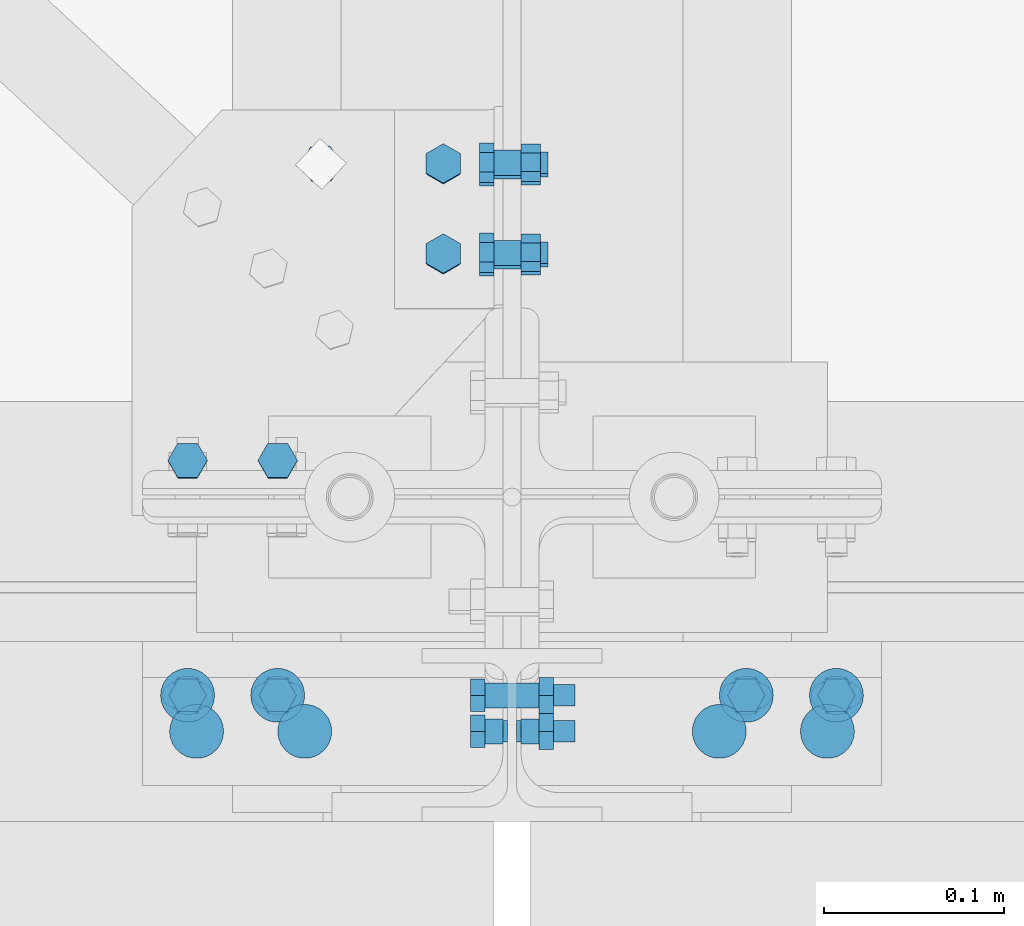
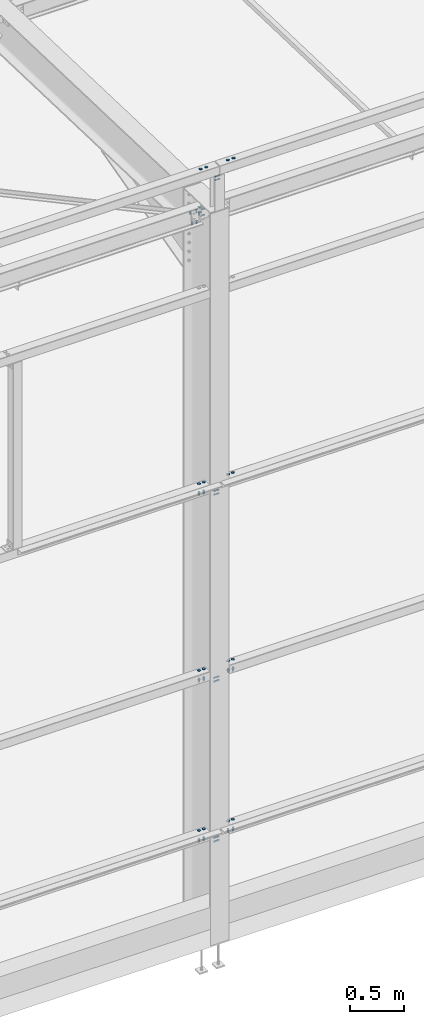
# One storey, part 206 of 362: 22 mechanical fasteners.
"""IFC2X3 building model written with IfcOpenShell, lengths in millimetres."""

from ifc_helpers import new_model, si_unit, frame, frame_2d, origin_with_axes, origin_2d_with_axis, place, context, subcontext, project, spatial, polyline, circle_curve, parameter, trimmed, segment, composite_curve, circle, outline, extrude, source, transform, mapped, material, type_object, element, save


model = new_model("IFC2X3")

# Units and contexts
model_context = context("Model", 3, precision=1e-05, world=origin_with_axes())
body_context = subcontext(model_context, "Body", "Model", "MODEL_VIEW")
ifc_project = project(units=[si_unit("LENGTHUNIT", "METRE", prefix="MILLI"), si_unit("AREAUNIT", "SQUARE_METRE"), si_unit("VOLUMEUNIT", "CUBIC_METRE"), si_unit("MASSUNIT", "GRAM", prefix="KILO"), si_unit("TIMEUNIT", "SECOND"), si_unit("PLANEANGLEUNIT", "RADIAN"), si_unit("SOLIDANGLEUNIT", "STERADIAN"), si_unit("THERMODYNAMICTEMPERATUREUNIT", "DEGREE_CELSIUS"), si_unit("LUMINOUSINTENSITYUNIT", "LUMEN")], contexts=[model_context])

# Site, building, storey
site_placement = place(None, origin_with_axes())
site = spatial("IfcSite", under=ifc_project, at=site_placement, Name="Undefined", CompositionType="ELEMENT")
building_placement = place(site_placement, origin_with_axes())
building = spatial("IfcBuilding", under=site, at=building_placement, Name="Undefined", CompositionType="ELEMENT")
storey_placement = place(building_placement, origin_with_axes())
storey = spatial("IfcBuildingStorey", under=building, at=storey_placement, Name="Undefined", CompositionType="ELEMENT", Elevation=0.0)

# Mechanical fasteners
ifc_material_1 = material(Name="8.8")
mechanical_fastener_type = type_object("IfcMechanicalFastenerType", Name="Bolt assembly")
shared_shape_1 = source(origin_with_axes(), body_context, "Body", "SweptSolid", [
    extrude(circle(Radius=7.0, at=origin_2d_with_axis()), frame((0.0, 0.098298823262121, 0.0), z_axis=(0.0, 1.0, 0.0), x_axis=(1.0, 0.0, 0.0)), (0.0, 0.0, 1.0), 6.1),
    extrude(circle(Radius=7.0, at=origin_2d_with_axis()), frame((0.0, -1.90000109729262, 0.0), z_axis=(0.0, 1.0, 0.0), x_axis=(1.0, 0.0, 0.0)), (0.0, 0.0, 1.0), 2.0),
    extrude(outline(polyline([(10.96965511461, 0.0), (5.484827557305, 9.50000000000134), (-5.484827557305, 9.50000000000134), (-10.96965511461, 0.0), (-5.484827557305, -9.50000000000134), (5.484827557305, -9.50000000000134), (10.96965511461, 0.0)])), frame((0.0, -10.0000010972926, 0.0), z_axis=(0.0, 1.0, 0.0), x_axis=(1.0, 0.0, 0.0)), (0.0, 0.0, 1.0), 8.0),
    extrude(circle(Radius=6.0, at=origin_2d_with_axis()), frame((0.0, -2.00000109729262, 0.0), z_axis=(0.0, 1.0, 0.0), x_axis=(1.0, 0.0, 0.0)), (0.0, 0.0, 1.0), 25.0),
    extrude(outline(polyline([(10.39230484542, 0.0), (5.19615242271, 9.00000000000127), (-5.19615242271, 9.00000000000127), (-10.39230484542, 0.0), (-5.19615242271, -9.00000000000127), (5.19615242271, -9.00000000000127), (10.39230484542, 0.0)])), frame((0.0, 6.19831197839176, 0.0), z_axis=(0.0, 1.0, 0.0), x_axis=(1.0, 0.0, 0.0)), (0.0, 0.0, 1.0), 10.8),
])
mechanical_fastener_1_placement = place(storey_placement, frame((4073.98418082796, 184.741906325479, 7844.09550787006), z_axis=(0.0364834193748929, -0.998873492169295, 0.0303431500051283), x_axis=(-0.999334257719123, -0.0364654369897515, 0.0011459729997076)))
element("IfcMechanicalFastener", 1, at=mechanical_fastener_1_placement, inside=storey, type_object=mechanical_fastener_type, material=ifc_material_1, Name="Bolt assembly", NominalDiameter=12.0, NominalLength=25.0, context=body_context, shape_type="MappedRepresentation", body=[
    mapped(shared_shape_1, transform((0.0, 0.0, 0.0))),
])
shared_shape_2 = source(origin_with_axes(), body_context, "Body", "SweptSolid", [
    extrude(circle(Radius=7.0, at=origin_2d_with_axis()), frame((0.0, -0.10007666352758, 0.0), z_axis=(0.0, 1.0, 0.0), x_axis=(1.0, 0.0, 0.0)), (0.0, 0.0, 1.0), 10.3),
    extrude(circle(Radius=7.0, at=origin_2d_with_axis()), frame((0.0, -4.90000000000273, 0.0), z_axis=(0.0, 1.0, 0.0), x_axis=(1.0, 0.0, 0.0)), (0.0, 0.0, 1.0), 5.0),
    extrude(outline(polyline([(10.96965511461, 0.0), (5.484827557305, 9.50000000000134), (-5.484827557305, 9.50000000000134), (-10.96965511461, 0.0), (-5.484827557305, -9.50000000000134), (5.484827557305, -9.50000000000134), (10.96965511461, 0.0)])), frame((0.0, -13.0000000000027, 0.0), z_axis=(0.0, 1.0, 0.0), x_axis=(1.0, 0.0, 0.0)), (0.0, 0.0, 1.0), 8.0),
    extrude(circle(Radius=6.0, at=origin_2d_with_axis()), frame((0.0, -5.00000000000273, 0.0), z_axis=(0.0, 1.0, 0.0), x_axis=(1.0, 0.0, 0.0)), (0.0, 0.0, 1.0), 30.0),
    extrude(outline(polyline([(10.39230484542, 0.0), (5.19615242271, 9.00000000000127), (-5.19615242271, 9.00000000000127), (-10.39230484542, 0.0), (-5.19615242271, -9.00000000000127), (5.19615242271, -9.00000000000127), (10.39230484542, 0.0)])), frame((0.0, 10.1999231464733, 0.0), z_axis=(0.0, 1.0, 0.0), x_axis=(1.0, 0.0, 0.0)), (0.0, 0.0, 1.0), 10.8),
])
for number, where, z_axis, x_axis, name in (
    (2, (4174.89999331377, 133.594721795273, 7809.53910875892), (0.0, -0.0324574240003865, -0.999473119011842), (0.0, 0.999473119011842, -0.0324574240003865), "Bolt assembly"),
    (3, (4174.89999331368, 135.534436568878, 7875.51530173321), (0.0, -0.0324574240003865, -0.999473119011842), (0.0, 0.999473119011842, -0.0324574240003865), "Bolt assembly"),
):
    element("IfcMechanicalFastener", number, at=place(storey_placement, frame(where, z_axis=z_axis, x_axis=x_axis)), inside=storey, type_object=mechanical_fastener_type, material=ifc_material_1, Name=name, NominalDiameter=12.0, NominalLength=30.0, context=body_context, shape_type="MappedRepresentation", body=[
        mapped(shared_shape_2, transform((0.0, 0.0, 0.0))),
        mapped(shared_shape_2, transform((49.9999999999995, 0.0, -3.63797880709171e-12))),
    ])
shared_shape_3 = source(origin_with_axes(), body_context, "Body", "SweptSolid", [
    extrude(circle(Radius=7.0, at=origin_2d_with_axis()), frame((0.0, -2.99999932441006, 0.0), z_axis=(0.0, 1.0, 0.0), x_axis=(1.0, 0.0, 0.0)), (0.0, 0.0, 1.0), 6.0),
    extrude(circle(Radius=7.0, at=origin_2d_with_axis()), frame((0.0, 2.90000527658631, 0.0), z_axis=(0.0, 1.0, 0.0), x_axis=(1.0, 0.0, 0.0)), (0.0, 0.0, 1.0), 5.1),
    extrude(circle(Radius=7.0, at=origin_2d_with_axis()), frame((0.0, -7.91218072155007, 0.0), z_axis=(0.0, 1.0, 0.0), x_axis=(1.0, 0.0, 0.0)), (0.0, 0.0, 1.0), 5.0),
    extrude(outline(polyline([(10.96965511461, 0.0), (5.484827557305, 9.50000000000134), (-5.484827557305, 9.50000000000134), (-10.96965511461, 0.0), (-5.484827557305, -9.50000000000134), (5.484827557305, -9.50000000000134), (10.96965511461, 0.0)])), frame((0.0, -16.0121807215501, 0.0), z_axis=(0.0, 1.0, 0.0), x_axis=(1.0, 0.0, 0.0)), (0.0, 0.0, 1.0), 8.0),
    extrude(circle(Radius=6.0, at=origin_2d_with_axis()), frame((0.0, -8.01218072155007, 0.0), z_axis=(0.0, 1.0, 0.0), x_axis=(1.0, 0.0, 0.0)), (0.0, 0.0, 1.0), 35.0),
    extrude(outline(polyline([(10.39230484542, 0.0), (5.19615242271, 9.00000000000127), (-5.19615242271, 9.00000000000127), (-10.39230484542, 0.0), (-5.19615242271, -9.00000000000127), (5.19615242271, -9.00000000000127), (10.39230484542, 0.0)])), frame((0.0, 8.00000527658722, 0.0), z_axis=(0.0, 1.0, 0.0), x_axis=(1.0, 0.0, 0.0)), (0.0, 0.0, 1.0), 10.8),
])
mechanical_fastener_2_placement = place(storey_placement, frame((4141.89999331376, 134.665821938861, 7842.52172166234), z_axis=(-1.0, 0.0, 0.0), x_axis=(0.0, 0.999473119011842, -0.0324574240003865)))
element("IfcMechanicalFastener", 4, at=mechanical_fastener_2_placement, inside=storey, type_object=mechanical_fastener_type, material=ifc_material_1, Name="Bolt assembly", NominalDiameter=12.0, NominalLength=35.0, context=body_context, shape_type="MappedRepresentation", body=[
    mapped(shared_shape_3, transform((0.0, 0.0, 0.0))),
    mapped(shared_shape_3, transform((49.9999999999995, 0.0, -3.63797880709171e-12))),
])
shared_shape_4 = source(origin_with_axes(), body_context, "Body", "SweptSolid", [
    extrude(circle(Radius=7.0, at=origin_2d_with_axis()), frame((0.0, -3.09999932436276, 0.0), z_axis=(0.0, 1.0, 0.0), x_axis=(1.0, 0.0, 0.0)), (0.0, 0.0, 1.0), 6.1),
    extrude(circle(Radius=7.0, at=origin_2d_with_axis()), frame((0.0, -11.4255399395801, 0.0), z_axis=(0.0, 1.0, 0.0), x_axis=(1.0, 0.0, 0.0)), (0.0, 0.0, 1.0), 8.5),
    extrude(outline(polyline([(10.96965511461, 0.0), (5.484827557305, 9.50000000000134), (-5.484827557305, 9.50000000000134), (-10.96965511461, 0.0), (-5.484827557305, -9.50000000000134), (5.484827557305, -9.50000000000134), (10.96965511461, 0.0)])), frame((0.0, -19.5255399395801, 0.0), z_axis=(0.0, 1.0, 0.0), x_axis=(1.0, 0.0, 0.0)), (0.0, 0.0, 1.0), 8.0),
    extrude(circle(Radius=6.0, at=origin_2d_with_axis()), frame((0.0, -11.5255399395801, 0.0), z_axis=(0.0, 1.0, 0.0), x_axis=(1.0, 0.0, 0.0)), (0.0, 0.0, 1.0), 30.0),
    extrude(outline(polyline([(10.39230484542, 0.0), (5.19615242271, 9.00000000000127), (-5.19615242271, 9.00000000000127), (-10.39230484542, 0.0), (-5.19615242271, -9.00000000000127), (5.19615242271, -9.00000000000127), (10.39230484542, 0.0)])), frame((0.0, 3.00000067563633, 0.0), z_axis=(0.0, 1.0, 0.0), x_axis=(1.0, 0.0, 0.0)), (0.0, 0.0, 1.0), 10.8),
])
mechanical_fastener_3_placement = place(storey_placement, frame((4050.0, 19.7493590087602, 7846.25358026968), z_axis=(0.0, -0.999473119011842, 0.0324574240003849), x_axis=(-1.0, 0.0, 0.0)))
element("IfcMechanicalFastener", 5, at=mechanical_fastener_3_placement, inside=storey, type_object=mechanical_fastener_type, material=ifc_material_1, Name="Bolt assembly", NominalDiameter=12.0, NominalLength=30.0, context=body_context, shape_type="MappedRepresentation", body=[
    mapped(shared_shape_4, transform((0.0, 0.0, 0.0))),
    mapped(shared_shape_4, transform((49.9999999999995, 0.0, -3.63797880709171e-12))),
])
ifc_material_2 = material(Name="6.8")
shared_shape_5 = source(origin_with_axes(), body_context, "Body", "SweptSolid", [
    extrude(circle(Radius=15.0, at=origin_2d_with_axis()), frame((0.0, 0.0, 0.0), z_axis=(0.0, 1.0, 0.0), x_axis=(1.0, 0.0, 0.0)), (0.0, 0.0, 1.0), 4.1),
])
for number, where, z_axis, x_axis, name in (
    (6, (4005.0000059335, -130.000005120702, 8550.0), (0.0, 1.0, 0.0), (1.0, 0.0, 0.0), "Bolt assembly"),
    (7, (4355.00000036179, -130.000005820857, 8550.0), (0.0, -1.0, 0.0), (-1.0, 0.0, 0.0), "Bolt assembly"),
):
    element("IfcMechanicalFastener", number, at=place(storey_placement, frame(where, z_axis=z_axis, x_axis=x_axis)), inside=storey, type_object=mechanical_fastener_type, material=ifc_material_2, Name=name, NominalDiameter=30.0, NominalLength=4.0, context=body_context, shape_type="MappedRepresentation", body=[
        mapped(shared_shape_5, transform((0.0, 0.0, 0.0))),
        mapped(shared_shape_5, transform((60.0, 0.0, 0.0))),
    ])
for number, where, z_axis, x_axis, name in (
    (8, (4000.00000272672, -110.000005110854, 1100.0), (0.0, 1.0, 0.0), (1.0, 0.0, 0.0), "Bolt assembly"),
    (9, (4360.00000272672, -110.000005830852, 1100.0), (0.0, -1.0, 0.0), (-1.0, 0.0, 0.0), "Bolt assembly"),
    (10, (4000.00000272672, -110.000005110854, 2900.0), (0.0, 1.0, 0.0), (1.0, 0.0, 0.0), "Bolt assembly"),
    (11, (4360.00000272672, -110.000005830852, 2900.0), (0.0, -1.0, 0.0), (-1.0, 0.0, 0.0), "Bolt assembly"),
    (12, (4000.00000272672, -110.000005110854, 5000.0), (0.0, 1.0, 0.0), (1.0, 0.0, 0.0), "Bolt assembly"),
    (13, (4360.00000272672, -110.000005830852, 5000.0), (0.0, -1.0, 0.0), (-1.0, 0.0, 0.0), "Bolt assembly"),
):
    element("IfcMechanicalFastener", number, at=place(storey_placement, frame(where, z_axis=z_axis, x_axis=x_axis)), inside=storey, type_object=mechanical_fastener_type, material=ifc_material_2, Name=name, NominalDiameter=30.0, NominalLength=4.0, context=body_context, shape_type="MappedRepresentation", body=[
        mapped(shared_shape_5, transform((0.0, 0.0, 0.0))),
        mapped(shared_shape_5, transform((49.9999999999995, 0.0, -3.63797880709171e-12))),
    ])
ifc_material_3 = material(Name="8.8-SB-ZINGUE")
shared_shape_6 = source(origin_with_axes(), body_context, "Body", "SweptSolid", [
    extrude(circle(Radius=7.0, at=origin_2d_with_axis()), frame((0.0, -2.5, 0.0), z_axis=(0.0, 1.0, 0.0), x_axis=(1.0, 0.0, 0.0)), (0.0, 0.0, 1.0), 5.0),
    extrude(circle(Radius=7.0, at=origin_2d_with_axis()), frame((0.0, -14.899999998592, 0.0), z_axis=(0.0, 1.0, 0.0), x_axis=(1.0, 0.0, 0.0)), (0.0, 0.0, 1.0), 10.0),
    extrude(circle(Radius=7.0, at=origin_2d_with_axis()), frame((0.0, 4.9000000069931, 0.0), z_axis=(0.0, 1.0, 0.0), x_axis=(1.0, 0.0, 0.0)), (0.0, 0.0, 1.0), 10.1),
    extrude(outline(polyline([(10.39230484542, 0.0), (5.19615242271, 9.00000000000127), (-5.19615242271, 9.00000000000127), (-10.39230484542, 0.0), (-5.19615242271, -9.00000000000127), (5.19615242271, -9.00000000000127), (10.39230484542, 0.0)])), frame((0.0, -22.919999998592, 0.0), z_axis=(0.0, 1.0, 0.0), x_axis=(1.0, 0.0, 0.0)), (0.0, 0.0, 1.0), 7.92),
    extrude(circle(Radius=6.0, at=origin_2d_with_axis()), frame((0.0, -14.999999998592, 0.0), z_axis=(0.0, 1.0, 0.0), x_axis=(1.0, 0.0, 0.0)), (0.0, 0.0, 1.0), 50.0),
    extrude(outline(polyline([(11.5008173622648, 0.0), (5.7504086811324, 9.96000000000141), (-5.7504086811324, 9.96000000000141), (-11.5008173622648, 0.0), (-5.7504086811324, -9.96000000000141), (5.7504086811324, -9.96000000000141), (11.5008173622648, 0.0)])), frame((0.0, 15.0000000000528, 0.0), z_axis=(0.0, 1.0, 0.0), x_axis=(1.0, 0.0, 0.0)), (0.0, 0.0, 1.0), 7.92),
])
mechanical_fastener_4_placement = place(storey_placement, frame((4180.00000529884, -130.000007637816, 8370.0), z_axis=(0.0, 1.0, 0.0), x_axis=(0.0, 0.0, 1.0)))
element("IfcMechanicalFastener", 14, at=mechanical_fastener_4_placement, inside=storey, type_object=mechanical_fastener_type, material=ifc_material_3, Name="Bolt assembly", NominalDiameter=12.0, NominalLength=50.0, context=body_context, shape_type="MappedRepresentation", body=[
    mapped(shared_shape_6, transform((0.0, 0.0, 0.0))),
    mapped(shared_shape_6, transform((40.0, 0.0, 0.0))),
])
shared_shape_7 = source(origin_with_axes(), body_context, "Body", "SweptSolid", [
    extrude(circle(Radius=7.0, at=origin_2d_with_axis()), frame((0.0, -5.10249010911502, 0.0), z_axis=(0.0, 1.0, 0.0), x_axis=(1.0, 0.0, 0.0)), (0.0, 0.0, 1.0), 10.2),
    extrude(circle(Radius=7.0, at=origin_2d_with_axis()), frame((0.0, 4.9000000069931, 0.0), z_axis=(0.0, 1.0, 0.0), x_axis=(1.0, 0.0, 0.0)), (0.0, 0.0, 1.0), 10.1),
    extrude(circle(Radius=7.0, at=origin_2d_with_axis()), frame((0.0, -14.899999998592, 0.0), z_axis=(0.0, 1.0, 0.0), x_axis=(1.0, 0.0, 0.0)), (0.0, 0.0, 1.0), 10.0),
    extrude(outline(polyline([(10.39230484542, 0.0), (5.19615242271, 9.00000000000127), (-5.19615242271, 9.00000000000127), (-10.39230484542, 0.0), (-5.19615242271, -9.00000000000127), (5.19615242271, -9.00000000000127), (10.39230484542, 0.0)])), frame((0.0, -22.919999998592, 0.0), z_axis=(0.0, 1.0, 0.0), x_axis=(1.0, 0.0, 0.0)), (0.0, 0.0, 1.0), 7.92),
    extrude(circle(Radius=6.0, at=origin_2d_with_axis()), frame((0.0, -14.999999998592, 0.0), z_axis=(0.0, 1.0, 0.0), x_axis=(1.0, 0.0, 0.0)), (0.0, 0.0, 1.0), 50.0),
    extrude(outline(polyline([(11.5008173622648, 0.0), (5.7504086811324, 9.96000000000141), (-5.7504086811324, 9.96000000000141), (-11.5008173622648, 0.0), (-5.7504086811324, -9.96000000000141), (5.7504086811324, -9.96000000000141), (11.5008173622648, 0.0)])), frame((0.0, 15.0000000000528, 0.0), z_axis=(0.0, 1.0, 0.0), x_axis=(1.0, 0.0, 0.0)), (0.0, 0.0, 1.0), 7.92),
])
mechanical_fastener_5_placement = place(storey_placement, frame((4180.00000529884, -110.000007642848, 920.0), z_axis=(0.0, 1.0, 0.0), x_axis=(0.0, 0.0, 1.0)))
element("IfcMechanicalFastener", 15, at=mechanical_fastener_5_placement, inside=storey, type_object=mechanical_fastener_type, material=ifc_material_3, Name="Bolt assembly", NominalDiameter=12.0, NominalLength=50.0, context=body_context, shape_type="MappedRepresentation", body=[
    mapped(shared_shape_7, transform((0.0, 0.0, 0.0))),
    mapped(shared_shape_7, transform((40.0, 0.0, 0.0))),
])
shared_shape_8 = source(origin_with_axes(), body_context, "Body", "SweptSolid", [
    extrude(circle(Radius=7.0, at=origin_2d_with_axis()), frame((0.0, -3.89999843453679, 0.0), z_axis=(0.0, 1.0, 0.0), x_axis=(1.0, 0.0, 0.0)), (0.0, 0.0, 1.0), 4.0),
    extrude(outline(composite_curve([segment(polyline([(-7.0, 7.0), (7.0, 7.0)]), True, "CONTINUOUS"), segment(trimmed(circle_curve(frame_2d((7.0, 0.0), x_axis=(0.0, 1.0)), 7.0), [parameter(0.0)], [parameter(3.14159265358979)], False, "PARAMETER"), True, "CONTINUOUS"), segment(polyline([(7.0, -7.0), (-7.0, -7.0)]), True, "CONTINUOUS"), segment(trimmed(circle_curve(frame_2d((-7.0, 0.0), x_axis=(0.0, -1.0)), 7.0), [parameter(0.0)], [parameter(3.14159265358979)], False, "PARAMETER"), True, "DISCONTINUOUS")], self_intersect=False)), frame((0.0, -0.100011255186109, 0.0), z_axis=(0.0, 1.0, 0.0), x_axis=(1.0, 0.0, 0.0)), (0.0, 0.0, 1.0), 10.1),
    extrude(outline(polyline([(10.39230484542, 0.0), (5.19615242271, 9.00000000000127), (-5.19615242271, 9.00000000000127), (-10.39230484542, 0.0), (-5.19615242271, -9.00000000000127), (5.19615242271, -9.00000000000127), (10.39230484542, 0.0)])), frame((0.0, -11.9199984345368, 0.0), z_axis=(0.0, 1.0, 0.0), x_axis=(1.0, 0.0, 0.0)), (0.0, 0.0, 1.0), 7.92),
    extrude(circle(Radius=6.0, at=origin_2d_with_axis()), frame((0.0, -3.99999923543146, 0.0), z_axis=(0.0, 1.0, 0.0), x_axis=(1.0, 0.0, 0.0)), (0.0, 0.0, 1.0), 40.0),
    extrude(circle(Radius=10.8, at=origin_2d_with_axis()), frame((0.0, 10.0000000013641, 0.0), z_axis=(0.0, 1.0, 0.0), x_axis=(1.0, 0.0, 0.0)), (0.0, 0.0, 1.0), 3.96),
    extrude(outline(polyline([(11.5008173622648, 0.0), (5.7504086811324, 9.96000000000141), (-5.7504086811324, 9.96000000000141), (-11.5008173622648, 0.0), (-5.7504086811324, -9.96000000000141), (5.7504086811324, -9.96000000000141), (11.5008173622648, 0.0)])), frame((0.0, 13.96, 0.0), z_axis=(0.0, 1.0, 0.0), x_axis=(1.0, 0.0, 0.0)), (0.0, 0.0, 1.0), 7.92),
])
mechanical_fastener_6_placement = place(storey_placement, frame((4000.00000272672, -110.000005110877, 1000.0), z_axis=(0.0, 1.0, 0.0), x_axis=(1.0, 0.0, 0.0)))
element("IfcMechanicalFastener", 16, at=mechanical_fastener_6_placement, inside=storey, type_object=mechanical_fastener_type, material=ifc_material_3, Name="Bolt assembly", NominalDiameter=12.0, NominalLength=40.0, context=body_context, shape_type="MappedRepresentation", body=[
    mapped(shared_shape_8, transform((0.0, 0.0, 0.0))),
    mapped(shared_shape_8, transform((49.9999999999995, 0.0, -3.63797880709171e-12))),
])
shared_shape_9 = source(origin_with_axes(), body_context, "Body", "SweptSolid", [
    extrude(circle(Radius=7.0, at=origin_2d_with_axis()), frame((0.0, -3.89999843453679, 0.0), z_axis=(0.0, 1.0, 0.0), x_axis=(1.0, 0.0, 0.0)), (0.0, 0.0, 1.0), 4.0),
    extrude(outline(composite_curve([segment(polyline([(-7.0, 7.0), (7.0, 7.0)]), True, "CONTINUOUS"), segment(trimmed(circle_curve(frame_2d((7.0, 0.0), x_axis=(0.0, 1.0)), 7.0), [parameter(0.0)], [parameter(3.14159265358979)], False, "PARAMETER"), True, "CONTINUOUS"), segment(polyline([(7.0, -7.0), (-7.0, -7.0)]), True, "CONTINUOUS"), segment(trimmed(circle_curve(frame_2d((-7.0, 0.0), x_axis=(0.0, -1.0)), 7.0), [parameter(0.0)], [parameter(3.14159265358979)], False, "PARAMETER"), True, "DISCONTINUOUS")], self_intersect=False)), frame((0.0, -0.100011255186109, 0.0), z_axis=(0.0, 1.0, 0.0), x_axis=(1.0, 0.0, 0.0)), (0.0, 0.0, 1.0), 10.1),
    extrude(outline(polyline([(10.39230484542, 0.0), (5.19615242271, 9.00000000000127), (-5.19615242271, 9.00000000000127), (-10.39230484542, 0.0), (-5.19615242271, -9.00000000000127), (5.19615242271, -9.00000000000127), (10.39230484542, 0.0)])), frame((0.0, -11.9199984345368, 0.0), z_axis=(0.0, 1.0, 0.0), x_axis=(1.0, 0.0, 0.0)), (0.0, 0.0, 1.0), 7.92),
    extrude(circle(Radius=6.0, at=origin_2d_with_axis()), frame((0.0, -3.99999923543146, 0.0), z_axis=(0.0, 1.0, 0.0), x_axis=(1.0, 0.0, 0.0)), (0.0, 0.0, 1.0), 40.0),
    extrude(circle(Radius=10.8, at=origin_2d_with_axis()), frame((0.0, 10.0000000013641, 0.0), z_axis=(0.0, 1.0, 0.0), x_axis=(1.0, 0.0, 0.0)), (0.0, 0.0, 1.0), 3.96),
    extrude(outline(polyline([(11.5008173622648, 0.0), (5.7504086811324, 9.96000000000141), (-5.7504086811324, 9.96000000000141), (-11.5008173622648, 0.0), (-5.7504086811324, -9.96000000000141), (5.7504086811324, -9.96000000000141), (11.5008173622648, 0.0)])), frame((0.0, 13.96, 0.0), z_axis=(0.0, 1.0, 0.0), x_axis=(1.0, 0.0, 0.0)), (0.0, 0.0, 1.0), 7.92),
])
mechanical_fastener_7_placement = place(storey_placement, frame((4360.00000272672, -110.000005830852, 1000.0), z_axis=(0.0, -1.0, 0.0), x_axis=(-1.0, 0.0, 0.0)))
element("IfcMechanicalFastener", 17, at=mechanical_fastener_7_placement, inside=storey, type_object=mechanical_fastener_type, material=ifc_material_3, Name="Bolt assembly", NominalDiameter=12.0, NominalLength=40.0, context=body_context, shape_type="MappedRepresentation", body=[
    mapped(shared_shape_9, transform((0.0, 0.0, 0.0))),
    mapped(shared_shape_9, transform((49.9999999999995, 0.0, -3.63797880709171e-12))),
])
shared_shape_10 = source(origin_with_axes(), body_context, "Body", "SweptSolid", [
    extrude(circle(Radius=7.0, at=origin_2d_with_axis()), frame((0.0, -5.10183049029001, 0.0), z_axis=(0.0, 1.0, 0.0), x_axis=(1.0, 0.0, 0.0)), (0.0, 0.0, 1.0), 10.2),
    extrude(circle(Radius=7.0, at=origin_2d_with_axis()), frame((0.0, 4.9000000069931, 0.0), z_axis=(0.0, 1.0, 0.0), x_axis=(1.0, 0.0, 0.0)), (0.0, 0.0, 1.0), 10.1),
    extrude(circle(Radius=7.0, at=origin_2d_with_axis()), frame((0.0, -14.899999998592, 0.0), z_axis=(0.0, 1.0, 0.0), x_axis=(1.0, 0.0, 0.0)), (0.0, 0.0, 1.0), 10.0),
    extrude(outline(polyline([(10.39230484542, 0.0), (5.19615242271, 9.00000000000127), (-5.19615242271, 9.00000000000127), (-10.39230484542, 0.0), (-5.19615242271, -9.00000000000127), (5.19615242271, -9.00000000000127), (10.39230484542, 0.0)])), frame((0.0, -22.919999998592, 0.0), z_axis=(0.0, 1.0, 0.0), x_axis=(1.0, 0.0, 0.0)), (0.0, 0.0, 1.0), 7.92),
    extrude(circle(Radius=6.0, at=origin_2d_with_axis()), frame((0.0, -14.999999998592, 0.0), z_axis=(0.0, 1.0, 0.0), x_axis=(1.0, 0.0, 0.0)), (0.0, 0.0, 1.0), 50.0),
    extrude(outline(polyline([(11.5008173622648, 0.0), (5.7504086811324, 9.96000000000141), (-5.7504086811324, 9.96000000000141), (-11.5008173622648, 0.0), (-5.7504086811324, -9.96000000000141), (5.7504086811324, -9.96000000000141), (11.5008173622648, 0.0)])), frame((0.0, 15.0000000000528, 0.0), z_axis=(0.0, 1.0, 0.0), x_axis=(1.0, 0.0, 0.0)), (0.0, 0.0, 1.0), 7.92),
])
mechanical_fastener_8_placement = place(storey_placement, frame((4180.00000529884, -110.000007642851, 2720.0), z_axis=(0.0, 1.0, 0.0), x_axis=(0.0, 0.0, 1.0)))
element("IfcMechanicalFastener", 18, at=mechanical_fastener_8_placement, inside=storey, type_object=mechanical_fastener_type, material=ifc_material_3, Name="Bolt assembly", NominalDiameter=12.0, NominalLength=50.0, context=body_context, shape_type="MappedRepresentation", body=[
    mapped(shared_shape_10, transform((0.0, 0.0, 0.0))),
    mapped(shared_shape_10, transform((40.0, 0.0, 0.0))),
])
shared_shape_11 = source(origin_with_axes(), body_context, "Body", "SweptSolid", [
    extrude(circle(Radius=7.0, at=origin_2d_with_axis()), frame((0.0, -3.89999843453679, 0.0), z_axis=(0.0, 1.0, 0.0), x_axis=(1.0, 0.0, 0.0)), (0.0, 0.0, 1.0), 4.0),
    extrude(outline(composite_curve([segment(polyline([(-7.0, 7.0), (7.0, 7.0)]), True, "CONTINUOUS"), segment(trimmed(circle_curve(frame_2d((7.0, 0.0), x_axis=(0.0, 1.0)), 7.0), [parameter(0.0)], [parameter(3.14159265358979)], False, "PARAMETER"), True, "CONTINUOUS"), segment(polyline([(7.0, -7.0), (-7.0, -7.0)]), True, "CONTINUOUS"), segment(trimmed(circle_curve(frame_2d((-7.0, 0.0), x_axis=(0.0, -1.0)), 7.0), [parameter(0.0)], [parameter(3.14159265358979)], False, "PARAMETER"), True, "DISCONTINUOUS")], self_intersect=False)), frame((0.0, -0.100011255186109, 0.0), z_axis=(0.0, 1.0, 0.0), x_axis=(1.0, 0.0, 0.0)), (0.0, 0.0, 1.0), 10.1),
    extrude(outline(polyline([(10.39230484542, 0.0), (5.19615242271, 9.00000000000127), (-5.19615242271, 9.00000000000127), (-10.39230484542, 0.0), (-5.19615242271, -9.00000000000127), (5.19615242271, -9.00000000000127), (10.39230484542, 0.0)])), frame((0.0, -11.9199984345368, 0.0), z_axis=(0.0, 1.0, 0.0), x_axis=(1.0, 0.0, 0.0)), (0.0, 0.0, 1.0), 7.92),
    extrude(circle(Radius=6.0, at=origin_2d_with_axis()), frame((0.0, -3.99999923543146, 0.0), z_axis=(0.0, 1.0, 0.0), x_axis=(1.0, 0.0, 0.0)), (0.0, 0.0, 1.0), 40.0),
    extrude(circle(Radius=10.8, at=origin_2d_with_axis()), frame((0.0, 10.0000000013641, 0.0), z_axis=(0.0, 1.0, 0.0), x_axis=(1.0, 0.0, 0.0)), (0.0, 0.0, 1.0), 3.96),
    extrude(outline(polyline([(11.5008173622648, 0.0), (5.7504086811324, 9.96000000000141), (-5.7504086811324, 9.96000000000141), (-11.5008173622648, 0.0), (-5.7504086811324, -9.96000000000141), (5.7504086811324, -9.96000000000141), (11.5008173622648, 0.0)])), frame((0.0, 13.96, 0.0), z_axis=(0.0, 1.0, 0.0), x_axis=(1.0, 0.0, 0.0)), (0.0, 0.0, 1.0), 7.92),
])
mechanical_fastener_9_placement = place(storey_placement, frame((4000.00000272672, -110.000005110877, 2800.0), z_axis=(0.0, 1.0, 0.0), x_axis=(1.0, 0.0, 0.0)))
element("IfcMechanicalFastener", 19, at=mechanical_fastener_9_placement, inside=storey, type_object=mechanical_fastener_type, material=ifc_material_3, Name="Bolt assembly", NominalDiameter=12.0, NominalLength=40.0, context=body_context, shape_type="MappedRepresentation", body=[
    mapped(shared_shape_11, transform((0.0, 0.0, 0.0))),
    mapped(shared_shape_11, transform((49.9999999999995, 0.0, -3.63797880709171e-12))),
])
shared_shape_12 = source(origin_with_axes(), body_context, "Body", "SweptSolid", [
    extrude(circle(Radius=7.0, at=origin_2d_with_axis()), frame((0.0, -3.89999843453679, 0.0), z_axis=(0.0, 1.0, 0.0), x_axis=(1.0, 0.0, 0.0)), (0.0, 0.0, 1.0), 4.0),
    extrude(outline(composite_curve([segment(polyline([(-7.0, 7.0), (7.0, 7.0)]), True, "CONTINUOUS"), segment(trimmed(circle_curve(frame_2d((7.0, 0.0), x_axis=(0.0, 1.0)), 7.0), [parameter(0.0)], [parameter(3.14159265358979)], False, "PARAMETER"), True, "CONTINUOUS"), segment(polyline([(7.0, -7.0), (-7.0, -7.0)]), True, "CONTINUOUS"), segment(trimmed(circle_curve(frame_2d((-7.0, 0.0), x_axis=(0.0, -1.0)), 7.0), [parameter(0.0)], [parameter(3.14159265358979)], False, "PARAMETER"), True, "DISCONTINUOUS")], self_intersect=False)), frame((0.0, -0.100011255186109, 0.0), z_axis=(0.0, 1.0, 0.0), x_axis=(1.0, 0.0, 0.0)), (0.0, 0.0, 1.0), 10.1),
    extrude(outline(polyline([(10.39230484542, 0.0), (5.19615242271, 9.00000000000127), (-5.19615242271, 9.00000000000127), (-10.39230484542, 0.0), (-5.19615242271, -9.00000000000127), (5.19615242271, -9.00000000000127), (10.39230484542, 0.0)])), frame((0.0, -11.9199984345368, 0.0), z_axis=(0.0, 1.0, 0.0), x_axis=(1.0, 0.0, 0.0)), (0.0, 0.0, 1.0), 7.92),
    extrude(circle(Radius=6.0, at=origin_2d_with_axis()), frame((0.0, -3.99999923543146, 0.0), z_axis=(0.0, 1.0, 0.0), x_axis=(1.0, 0.0, 0.0)), (0.0, 0.0, 1.0), 40.0),
    extrude(circle(Radius=10.8, at=origin_2d_with_axis()), frame((0.0, 10.0000000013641, 0.0), z_axis=(0.0, 1.0, 0.0), x_axis=(1.0, 0.0, 0.0)), (0.0, 0.0, 1.0), 3.96),
    extrude(outline(polyline([(11.5008173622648, 0.0), (5.7504086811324, 9.96000000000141), (-5.7504086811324, 9.96000000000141), (-11.5008173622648, 0.0), (-5.7504086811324, -9.96000000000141), (5.7504086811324, -9.96000000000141), (11.5008173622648, 0.0)])), frame((0.0, 13.96, 0.0), z_axis=(0.0, 1.0, 0.0), x_axis=(1.0, 0.0, 0.0)), (0.0, 0.0, 1.0), 7.92),
])
mechanical_fastener_10_placement = place(storey_placement, frame((4360.00000272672, -110.000005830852, 2800.0), z_axis=(0.0, -1.0, 0.0), x_axis=(-1.0, 0.0, 0.0)))
element("IfcMechanicalFastener", 20, at=mechanical_fastener_10_placement, inside=storey, type_object=mechanical_fastener_type, material=ifc_material_3, Name="Bolt assembly", NominalDiameter=12.0, NominalLength=40.0, context=body_context, shape_type="MappedRepresentation", body=[
    mapped(shared_shape_12, transform((0.0, 0.0, 0.0))),
    mapped(shared_shape_12, transform((49.9999999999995, 0.0, -3.63797880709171e-12))),
])
shared_shape_13 = source(origin_with_axes(), body_context, "Body", "SweptSolid", [
    extrude(circle(Radius=7.0, at=origin_2d_with_axis()), frame((0.0, -5.10112302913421, 0.0), z_axis=(0.0, 1.0, 0.0), x_axis=(1.0, 0.0, 0.0)), (0.0, 0.0, 1.0), 10.2),
    extrude(circle(Radius=7.0, at=origin_2d_with_axis()), frame((0.0, 4.9000000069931, 0.0), z_axis=(0.0, 1.0, 0.0), x_axis=(1.0, 0.0, 0.0)), (0.0, 0.0, 1.0), 10.1),
    extrude(circle(Radius=7.0, at=origin_2d_with_axis()), frame((0.0, -14.899999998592, 0.0), z_axis=(0.0, 1.0, 0.0), x_axis=(1.0, 0.0, 0.0)), (0.0, 0.0, 1.0), 10.0),
    extrude(outline(polyline([(10.39230484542, 0.0), (5.19615242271, 9.00000000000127), (-5.19615242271, 9.00000000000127), (-10.39230484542, 0.0), (-5.19615242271, -9.00000000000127), (5.19615242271, -9.00000000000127), (10.39230484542, 0.0)])), frame((0.0, -22.919999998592, 0.0), z_axis=(0.0, 1.0, 0.0), x_axis=(1.0, 0.0, 0.0)), (0.0, 0.0, 1.0), 7.92),
    extrude(circle(Radius=6.0, at=origin_2d_with_axis()), frame((0.0, -14.999999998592, 0.0), z_axis=(0.0, 1.0, 0.0), x_axis=(1.0, 0.0, 0.0)), (0.0, 0.0, 1.0), 50.0),
    extrude(outline(polyline([(11.5008173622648, 0.0), (5.7504086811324, 9.96000000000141), (-5.7504086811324, 9.96000000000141), (-11.5008173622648, 0.0), (-5.7504086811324, -9.96000000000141), (5.7504086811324, -9.96000000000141), (11.5008173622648, 0.0)])), frame((0.0, 15.0000000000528, 0.0), z_axis=(0.0, 1.0, 0.0), x_axis=(1.0, 0.0, 0.0)), (0.0, 0.0, 1.0), 7.92),
])
mechanical_fastener_11_placement = place(storey_placement, frame((4180.00000529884, -110.00000764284, 4820.0), z_axis=(0.0, 1.0, 0.0), x_axis=(0.0, 0.0, 1.0)))
element("IfcMechanicalFastener", 21, at=mechanical_fastener_11_placement, inside=storey, type_object=mechanical_fastener_type, material=ifc_material_3, Name="Bolt assembly", NominalDiameter=12.0, NominalLength=50.0, context=body_context, shape_type="MappedRepresentation", body=[
    mapped(shared_shape_13, transform((0.0, 0.0, 0.0))),
    mapped(shared_shape_13, transform((40.0, 0.0, 0.0))),
])
shared_shape_14 = source(origin_with_axes(), body_context, "Body", "SweptSolid", [
    extrude(circle(Radius=7.0, at=origin_2d_with_axis()), frame((0.0, -3.89999843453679, 0.0), z_axis=(0.0, 1.0, 0.0), x_axis=(1.0, 0.0, 0.0)), (0.0, 0.0, 1.0), 4.0),
    extrude(outline(composite_curve([segment(polyline([(-7.0, 7.0), (7.0, 7.0)]), True, "CONTINUOUS"), segment(trimmed(circle_curve(frame_2d((7.0, 0.0), x_axis=(0.0, 1.0)), 7.0), [parameter(0.0)], [parameter(3.14159265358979)], False, "PARAMETER"), True, "CONTINUOUS"), segment(polyline([(7.0, -7.0), (-7.0, -7.0)]), True, "CONTINUOUS"), segment(trimmed(circle_curve(frame_2d((-7.0, 0.0), x_axis=(0.0, -1.0)), 7.0), [parameter(0.0)], [parameter(3.14159265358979)], False, "PARAMETER"), True, "DISCONTINUOUS")], self_intersect=False)), frame((0.0, -0.100011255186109, 0.0), z_axis=(0.0, 1.0, 0.0), x_axis=(1.0, 0.0, 0.0)), (0.0, 0.0, 1.0), 10.1),
    extrude(outline(polyline([(10.39230484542, 0.0), (5.19615242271, 9.00000000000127), (-5.19615242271, 9.00000000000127), (-10.39230484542, 0.0), (-5.19615242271, -9.00000000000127), (5.19615242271, -9.00000000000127), (10.39230484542, 0.0)])), frame((0.0, -11.9199984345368, 0.0), z_axis=(0.0, 1.0, 0.0), x_axis=(1.0, 0.0, 0.0)), (0.0, 0.0, 1.0), 7.92),
    extrude(circle(Radius=6.0, at=origin_2d_with_axis()), frame((0.0, -3.99999923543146, 0.0), z_axis=(0.0, 1.0, 0.0), x_axis=(1.0, 0.0, 0.0)), (0.0, 0.0, 1.0), 40.0),
    extrude(circle(Radius=10.8, at=origin_2d_with_axis()), frame((0.0, 10.0000000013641, 0.0), z_axis=(0.0, 1.0, 0.0), x_axis=(1.0, 0.0, 0.0)), (0.0, 0.0, 1.0), 3.96),
    extrude(outline(polyline([(11.5008173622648, 0.0), (5.7504086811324, 9.96000000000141), (-5.7504086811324, 9.96000000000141), (-11.5008173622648, 0.0), (-5.7504086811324, -9.96000000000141), (5.7504086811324, -9.96000000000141), (11.5008173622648, 0.0)])), frame((0.0, 13.96, 0.0), z_axis=(0.0, 1.0, 0.0), x_axis=(1.0, 0.0, 0.0)), (0.0, 0.0, 1.0), 7.92),
])
mechanical_fastener_12_placement = place(storey_placement, frame((4000.00000272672, -110.000005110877, 4900.0), z_axis=(0.0, 1.0, 0.0), x_axis=(1.0, 0.0, 0.0)))
element("IfcMechanicalFastener", 22, at=mechanical_fastener_12_placement, inside=storey, type_object=mechanical_fastener_type, material=ifc_material_3, Name="Bolt assembly", NominalDiameter=12.0, NominalLength=40.0, context=body_context, shape_type="MappedRepresentation", body=[
    mapped(shared_shape_14, transform((0.0, 0.0, 0.0))),
    mapped(shared_shape_14, transform((49.9999999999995, 0.0, -3.63797880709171e-12))),
])

save(model, "model.ifc")
